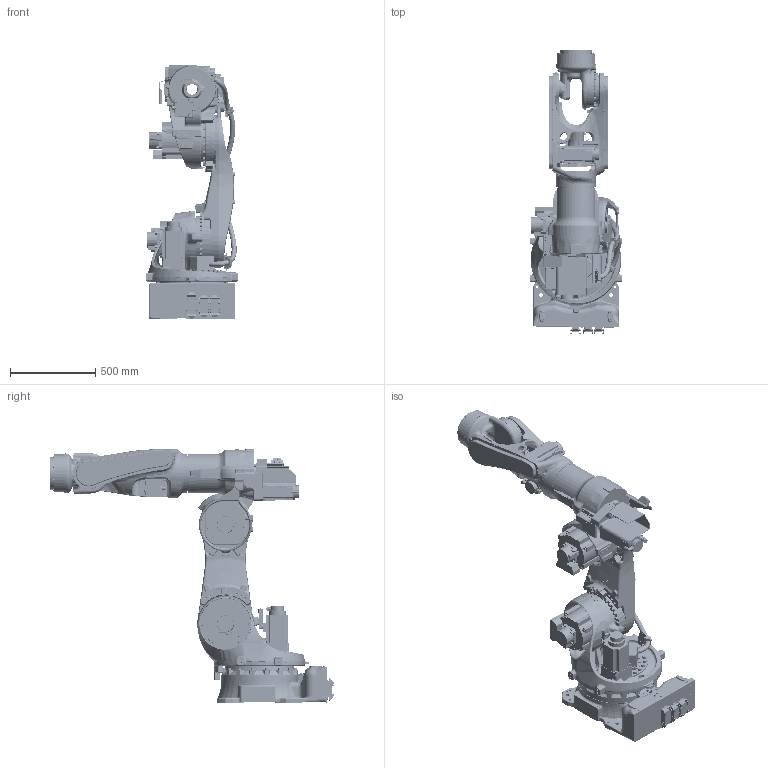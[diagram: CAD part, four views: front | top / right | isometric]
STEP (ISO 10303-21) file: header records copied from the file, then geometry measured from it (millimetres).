
FILE_DESCRIPTION(('CATIA V5 STEP Exchange'),'2;1');
FILE_NAME('D:\モデリング\☆☆☆STEP\BX\BX100\BX100S\RARAS_200717\Part\BX100S-B001.stp','2020-07-28T02:32:33+00:00',('none'),('none'),'CATIA Version 5-6 Release 2016 SP6 HF14','CATIA V5 STEP AP203','none');
FILE_SCHEMA(('CONFIG_CONTROL_DESIGN'));
Products named in the file (1): BX100S-B001
Assembly tree (8 placements, depth 2):
  BX100S-B001
    #57
    #67612
    #162779
    #222640
    #300537
    #403854
    #445415
    #448681
Bounding box: 540 x 1658.77 x 1489.7 mm (x, y, z)
Volume: 169492258.3 mm3; surface area: 8659396 mm2
Topology: 27 solids, 27 shells, 9511 faces, 24177 edges, 14847 vertices
Faces by surface type: cylinder 3281, plane 3012, bspline 1826, cone 539, torus 524, sphere 143, extrusion 128, revolution 58
Entity records: 450613 total; most frequent: CARTESIAN_POINT 252703, ORIENTED_EDGE 47400, DIRECTION 27778, EDGE_CURVE 23700, VERTEX_POINT 14846, AXIS2_PLACEMENT_3D 13259, EDGE_LOOP 10429, ADVANCED_FACE 9511
